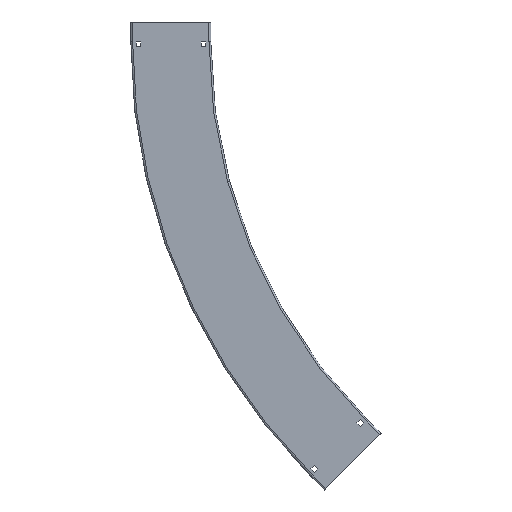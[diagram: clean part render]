
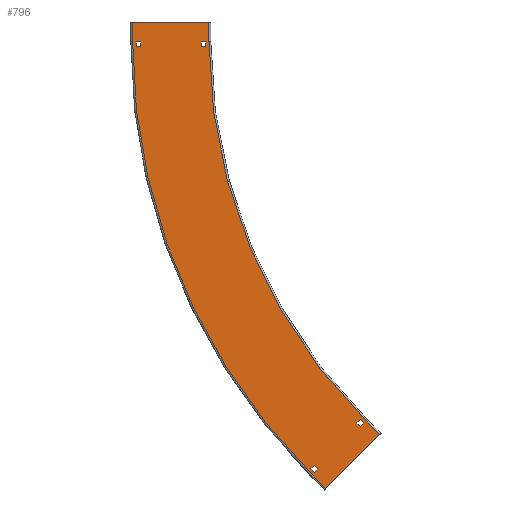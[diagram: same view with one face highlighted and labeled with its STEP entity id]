
A CAD part, left-side view. The second image highlights one B-rep face of the part: STEP entity #796.
In plain terms, the highlighted planar face has unit normal (-1, 0, 0).
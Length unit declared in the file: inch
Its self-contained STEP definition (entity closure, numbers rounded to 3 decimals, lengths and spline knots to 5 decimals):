
#1=DIRECTION('',(0.,-0.707,-0.707));
#2=VECTOR('',#1,6.858);
#3=CARTESIAN_POINT('',(0.,37.66758,40.14245));
#4=LINE('',#3,#2);
#5=DIRECTION('',(0.,1.,0.));
#6=VECTOR('',#5,6.858);
#7=CARTESIAN_POINT('',(0.,48.162,-1.75));
#8=LINE('',#7,#6);
#9=DIRECTION('',(0.,0.,-1.));
#10=VECTOR('',#9,0.41);
#11=CARTESIAN_POINT('',(0.,54.7135,0.455));
#12=LINE('',#11,#10);
#13=DIRECTION('',(0.,-1.,0.));
#14=VECTOR('',#13,0.41);
#15=CARTESIAN_POINT('',(0.,54.7135,0.045));
#16=LINE('',#15,#14);
#17=DIRECTION('',(0.,0.,1.));
#18=VECTOR('',#17,0.41);
#19=CARTESIAN_POINT('',(0.,54.3035,0.045));
#20=LINE('',#19,#18);
#21=DIRECTION('',(0.,1.,0.));
#22=VECTOR('',#21,0.41);
#23=CARTESIAN_POINT('',(0.,54.3035,0.455));
#24=LINE('',#23,#22);
#25=DIRECTION('',(0.,1.,0.));
#26=VECTOR('',#25,0.41);
#27=CARTESIAN_POINT('',(0.,48.4685,0.455));
#28=LINE('',#27,#26);
#29=DIRECTION('',(0.,0.,-1.));
#30=VECTOR('',#29,0.41);
#31=CARTESIAN_POINT('',(0.,48.8785,0.455));
#32=LINE('',#31,#30);
#33=DIRECTION('',(0.,-1.,0.));
#34=VECTOR('',#33,0.41);
#35=CARTESIAN_POINT('',(0.,48.8785,0.045));
#36=LINE('',#35,#34);
#37=DIRECTION('',(0.,0.,1.));
#38=VECTOR('',#37,0.41);
#39=CARTESIAN_POINT('',(0.,48.4685,0.045));
#40=LINE('',#39,#38);
#41=DIRECTION('',(0.,-0.707,-0.707));
#42=VECTOR('',#41,0.41);
#43=CARTESIAN_POINT('',(0.,34.88361,34.24015));
#44=LINE('',#43,#42);
#45=DIRECTION('',(0.,-0.707,0.707));
#46=VECTOR('',#45,0.41);
#47=CARTESIAN_POINT('',(0.,34.5937,33.95023));
#48=LINE('',#47,#46);
#49=DIRECTION('',(0.,0.707,0.707));
#50=VECTOR('',#49,0.41);
#51=CARTESIAN_POINT('',(0.,34.30379,34.24015));
#52=LINE('',#51,#50);
#53=DIRECTION('',(0.,0.707,-0.707));
#54=VECTOR('',#53,0.41);
#55=CARTESIAN_POINT('',(0.,34.5937,34.53006));
#56=LINE('',#55,#54);
#57=DIRECTION('',(0.,0.707,0.707));
#58=VECTOR('',#57,0.41);
#59=CARTESIAN_POINT('',(0.,38.4298,38.36616));
#60=LINE('',#59,#58);
#61=DIRECTION('',(0.,0.707,-0.707));
#62=VECTOR('',#61,0.41);
#63=CARTESIAN_POINT('',(0.,38.71971,38.65607));
#64=LINE('',#63,#62);
#65=DIRECTION('',(0.,-0.707,-0.707));
#66=VECTOR('',#65,0.41);
#67=CARTESIAN_POINT('',(0.,39.00963,38.36616));
#68=LINE('',#67,#66);
#69=DIRECTION('',(0.,-0.707,0.707));
#70=VECTOR('',#69,0.41);
#71=CARTESIAN_POINT('',(0.,38.71971,38.07625));
#72=LINE('',#71,#70);
#73=DIRECTION('',(0.,0.,1.));
#74=VECTOR('',#73,1.75);
#75=CARTESIAN_POINT('',(0.,55.02,-1.75));
#76=LINE('',#75,#74);
#114=DIRECTION('',(0.,0.,-1.));
#115=VECTOR('',#114,1.75);
#116=CARTESIAN_POINT('',(0.,48.162,0.));
#117=LINE('',#116,#115);
#123=CARTESIAN_POINT('',(0.,0.,0.));
#124=DIRECTION('',(-1.,0.,0.));
#125=DIRECTION('',(0.,0.707,0.707));
#126=AXIS2_PLACEMENT_3D('',#123,#124,#125);
#128=DIRECTION('',(0.,0.707,-0.707));
#129=VECTOR('',#128,1.75);
#130=CARTESIAN_POINT('',(0.,32.81824,35.29311));
#131=LINE('',#130,#129);
#169=DIRECTION('',(0.,-0.707,0.707));
#170=VECTOR('',#169,1.75);
#171=CARTESIAN_POINT('',(0.,38.90502,38.90502));
#172=LINE('',#171,#170);
#178=CARTESIAN_POINT('',(0.,0.,0.));
#179=DIRECTION('',(1.,0.,0.));
#180=DIRECTION('',(0.,1.,0.));
#181=AXIS2_PLACEMENT_3D('',#178,#179,#180);
#573=CARTESIAN_POINT('',(0.,32.81824,35.29311));
#575=VERTEX_POINT('',#573);
#579=CARTESIAN_POINT('',(0.,34.05568,34.05568));
#581=VERTEX_POINT('',#579);
#585=CARTESIAN_POINT('',(0.,48.162,0.));
#587=VERTEX_POINT('',#585);
#591=CARTESIAN_POINT('',(0.,48.162,-1.75));
#593=VERTEX_POINT('',#591);
#621=CARTESIAN_POINT('',(0.,55.02,-1.75));
#622=VERTEX_POINT('',#621);
#623=CARTESIAN_POINT('',(0.,37.66758,40.14245));
#624=VERTEX_POINT('',#623);
#629=CARTESIAN_POINT('',(0.,55.02,0.));
#631=VERTEX_POINT('',#629);
#635=CARTESIAN_POINT('',(0.,38.90502,38.90502));
#637=VERTEX_POINT('',#635);
#669=CARTESIAN_POINT('',(0.,54.7135,0.455));
#670=CARTESIAN_POINT('',(0.,54.7135,0.045));
#671=VERTEX_POINT('',#669);
#672=VERTEX_POINT('',#670);
#673=CARTESIAN_POINT('',(0.,54.3035,0.045));
#674=VERTEX_POINT('',#673);
#675=CARTESIAN_POINT('',(0.,54.3035,0.455));
#676=VERTEX_POINT('',#675);
#677=CARTESIAN_POINT('',(0.,48.4685,0.455));
#678=CARTESIAN_POINT('',(0.,48.8785,0.455));
#679=VERTEX_POINT('',#677);
#680=VERTEX_POINT('',#678);
#681=CARTESIAN_POINT('',(0.,48.8785,0.045));
#682=VERTEX_POINT('',#681);
#683=CARTESIAN_POINT('',(0.,48.4685,0.045));
#684=VERTEX_POINT('',#683);
#701=CARTESIAN_POINT('',(0.,34.88361,34.24015));
#702=CARTESIAN_POINT('',(0.,34.5937,33.95023));
#703=VERTEX_POINT('',#701);
#704=VERTEX_POINT('',#702);
#705=CARTESIAN_POINT('',(0.,34.30379,34.24015));
#706=VERTEX_POINT('',#705);
#707=CARTESIAN_POINT('',(0.,34.5937,34.53006));
#708=VERTEX_POINT('',#707);
#709=CARTESIAN_POINT('',(0.,38.4298,38.36616));
#710=CARTESIAN_POINT('',(0.,38.71971,38.65607));
#711=VERTEX_POINT('',#709);
#712=VERTEX_POINT('',#710);
#713=CARTESIAN_POINT('',(0.,39.00963,38.36616));
#714=VERTEX_POINT('',#713);
#715=CARTESIAN_POINT('',(0.,38.71971,38.07625));
#716=VERTEX_POINT('',#715);
#733=CARTESIAN_POINT('',(0.,0.,0.));
#734=DIRECTION('',(1.,0.,0.));
#735=DIRECTION('',(0.,0.,-1.));
#736=AXIS2_PLACEMENT_3D('',#733,#734,#735);
#737=PLANE('',#736);
#739=ORIENTED_EDGE('',*,*,#738,.T.);
#741=ORIENTED_EDGE('',*,*,#740,.T.);
#743=ORIENTED_EDGE('',*,*,#742,.T.);
#745=ORIENTED_EDGE('',*,*,#744,.T.);
#747=ORIENTED_EDGE('',*,*,#746,.T.);
#749=ORIENTED_EDGE('',*,*,#748,.T.);
#751=ORIENTED_EDGE('',*,*,#750,.T.);
#753=ORIENTED_EDGE('',*,*,#752,.T.);
#754=EDGE_LOOP('',(#739,#741,#743,#745,#747,#749,#751,#753));
#755=FACE_OUTER_BOUND('',#754,.F.);
#757=ORIENTED_EDGE('',*,*,#756,.T.);
#759=ORIENTED_EDGE('',*,*,#758,.T.);
#761=ORIENTED_EDGE('',*,*,#760,.T.);
#763=ORIENTED_EDGE('',*,*,#762,.T.);
#764=EDGE_LOOP('',(#757,#759,#761,#763));
#765=FACE_BOUND('',#764,.F.);
#767=ORIENTED_EDGE('',*,*,#766,.T.);
#769=ORIENTED_EDGE('',*,*,#768,.T.);
#771=ORIENTED_EDGE('',*,*,#770,.T.);
#773=ORIENTED_EDGE('',*,*,#772,.T.);
#774=EDGE_LOOP('',(#767,#769,#771,#773));
#775=FACE_BOUND('',#774,.F.);
#777=ORIENTED_EDGE('',*,*,#776,.T.);
#779=ORIENTED_EDGE('',*,*,#778,.T.);
#781=ORIENTED_EDGE('',*,*,#780,.T.);
#783=ORIENTED_EDGE('',*,*,#782,.T.);
#784=EDGE_LOOP('',(#777,#779,#781,#783));
#785=FACE_BOUND('',#784,.F.);
#787=ORIENTED_EDGE('',*,*,#786,.T.);
#789=ORIENTED_EDGE('',*,*,#788,.T.);
#791=ORIENTED_EDGE('',*,*,#790,.T.);
#793=ORIENTED_EDGE('',*,*,#792,.T.);
#794=EDGE_LOOP('',(#787,#789,#791,#793));
#795=FACE_BOUND('',#794,.F.);
#796=ADVANCED_FACE('',(#755,#765,#775,#785,#795),#737,.F.);
#127=CIRCLE('',#126,48.162);
#182=CIRCLE('',#181,55.02);
#738=EDGE_CURVE('',#622,#631,#76,.T.);
#740=EDGE_CURVE('',#631,#637,#182,.T.);
#742=EDGE_CURVE('',#637,#624,#172,.T.);
#744=EDGE_CURVE('',#624,#575,#4,.T.);
#746=EDGE_CURVE('',#575,#581,#131,.T.);
#748=EDGE_CURVE('',#581,#587,#127,.T.);
#750=EDGE_CURVE('',#587,#593,#117,.T.);
#752=EDGE_CURVE('',#593,#622,#8,.T.);
#756=EDGE_CURVE('',#671,#672,#12,.T.);
#758=EDGE_CURVE('',#672,#674,#16,.T.);
#760=EDGE_CURVE('',#674,#676,#20,.T.);
#762=EDGE_CURVE('',#676,#671,#24,.T.);
#766=EDGE_CURVE('',#679,#680,#28,.T.);
#768=EDGE_CURVE('',#680,#682,#32,.T.);
#770=EDGE_CURVE('',#682,#684,#36,.T.);
#772=EDGE_CURVE('',#684,#679,#40,.T.);
#776=EDGE_CURVE('',#703,#704,#44,.T.);
#778=EDGE_CURVE('',#704,#706,#48,.T.);
#780=EDGE_CURVE('',#706,#708,#52,.T.);
#782=EDGE_CURVE('',#708,#703,#56,.T.);
#786=EDGE_CURVE('',#711,#712,#60,.T.);
#788=EDGE_CURVE('',#712,#714,#64,.T.);
#790=EDGE_CURVE('',#714,#716,#68,.T.);
#792=EDGE_CURVE('',#716,#711,#72,.T.);
